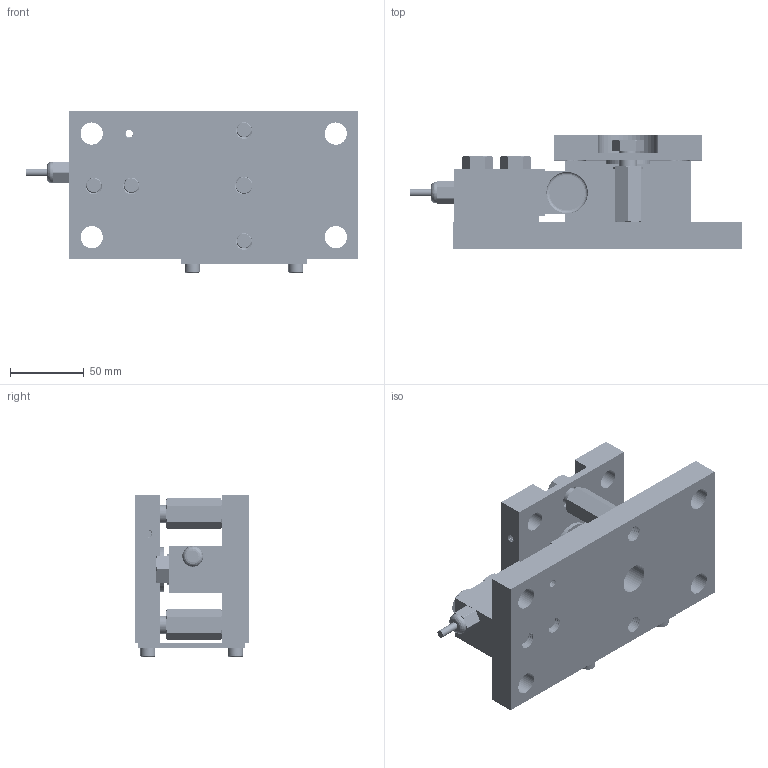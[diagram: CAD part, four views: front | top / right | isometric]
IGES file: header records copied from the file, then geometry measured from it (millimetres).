
Global section: file name: 563YHM4-(0.1-SE5)klb v20; native system: unknown; preprocessor: unknown; author: unknown; organization: unknown; date: 20200512.095117; units: millimetre
Bounding box: 224.4 x 76.7 x 109 mm (x, y, z)
Volume: 647106.9 mm3; surface area: 160919.4 mm2
Topology: 18 solids, 18 shells, 1152 faces, 3031 edges, 2000 vertices
Faces by surface type: bspline 1152
